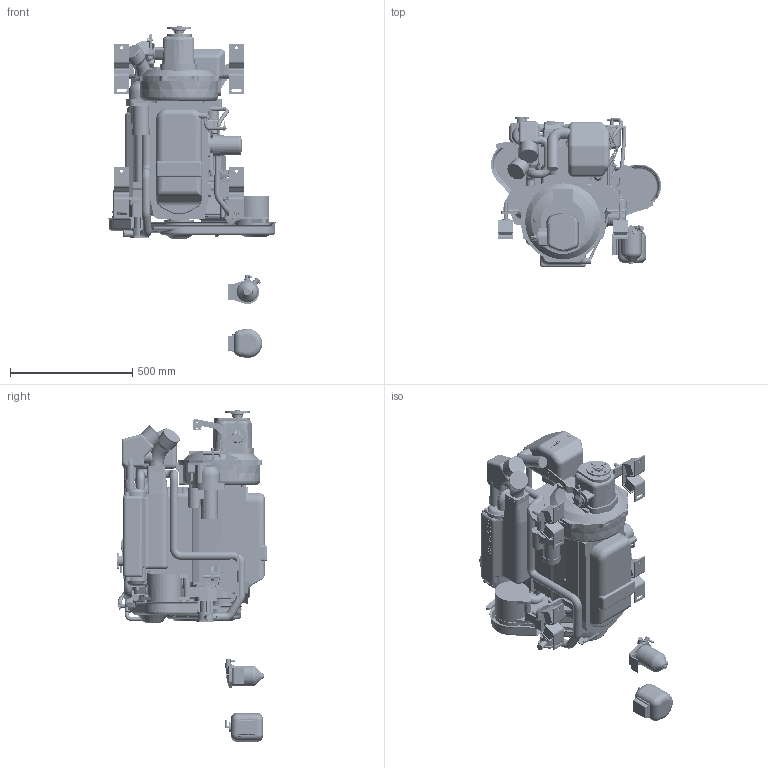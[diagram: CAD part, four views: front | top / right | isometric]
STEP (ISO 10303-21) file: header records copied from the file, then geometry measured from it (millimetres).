
FILE_DESCRIPTION(('CoCreate Modeling STEP Export'),'2;1');
FILE_NAME('4JH5E_KM35P.stp','2013-04-12T 9:15:49',(''),(''),'CoCreate Modeling STEP processor for AP214 (Solid Model)','CoCreate Modeling 16.50A 01-Dec-2009 (C) Parametric Technology GmbH','');
FILE_SCHEMA(('AUTOMOTIVE_DESIGN { 1 0 10303 214 1 1 1 1 }'));
Length unit declared in the file: millimetre
Products named in the file (56): 4JH5E_001; 4JH5E_008; 4JH5E_028; 4JH5E_029; 4JH5E_011; 4JH5E_013; 4JH5E_014; 4JH5E_009; 4JH5E_019; 4JH5E_002; 4JH5E_033; 4JH5E_004; 4JH5E_003; 4JH5E_006; 4JH5E_005; 4JH5E_030; 4JH5E_027; 4JH5E_007; 4JH5E_010; 4JH5E_031; 4JH5E_015; 4JH5E_016; 4JH5E_032; 4JH5E_018; 4JH5E_022; 4JH5E_025; 4JH5E_023; 4JH5E_024; 4JH5E_017; 4JH5E_020; 4JH5E_021; 4JH5E_026; 4JH5E_012; Base; Mixing-elbow-type-2; Mixing-elbow-type-1; Mixing-elbow; 4JH5E_Engine_Gearbox; C.O.G._P1; C.O.G._P2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
Assembly tree (55 placements, depth 4):
  4JH5E_KM35P
    KMP35P_Gearbox-JH5
      KM35P_JH5E_001
    4JH5E_Engine_Options
      4JH5E-option_004
      4JH5E-option_001
      4JH5E-option_002
      4JH5E-option_003
      4JH5E-option_007
      4JH5E-option_006
      4JH5E-option_005
    Center_of_gravity
      C.O.G._P5
      C.O.G._P6
      C.O.G._P4
      C.O.G._P3
      C.O.G._P2
      C.O.G._P1
    4JH5E_Engine_Gearbox
      Mixing-elbow
        Mixing-elbow-type-1
        Mixing-elbow-type-2
      Base
        4JH5E_012
        4JH5E_026
        4JH5E_021
        4JH5E_020
        4JH5E_017
        4JH5E_024
        4JH5E_023
        4JH5E_025
        4JH5E_022
        4JH5E_018
        4JH5E_032
        4JH5E_016
        4JH5E_015
        4JH5E_031
        4JH5E_010
        4JH5E_007
        4JH5E_027
        4JH5E_030
        4JH5E_005
        4JH5E_006
        4JH5E_003
        4JH5E_004
        4JH5E_033
        4JH5E_002
        4JH5E_019
        4JH5E_009
        4JH5E_014
        4JH5E_013
        4JH5E_011
        4JH5E_029
        4JH5E_028
        4JH5E_008
        4JH5E_001
Bounding box: 695.91 x 613.6 x 1358.25 mm (x, y, z)
Volume: 93570365.1 mm3; surface area: 6223915.6 mm2
Topology: 49 solids, 49 shells, 5427 faces, 14559 edges, 9365 vertices
Faces by surface type: cylinder 2461, plane 2079, torus 467, cone 159, bspline 93, sphere 86, extrusion 49, revolution 33
Entity records: 170011 total; most frequent: CARTESIAN_POINT 42398, ORIENTED_EDGE 29002, DIRECTION 24059, EDGE_CURVE 14501, VERTEX_POINT 9365, AXIS2_PLACEMENT_3D 8390, VECTOR 7251, LINE 7202
